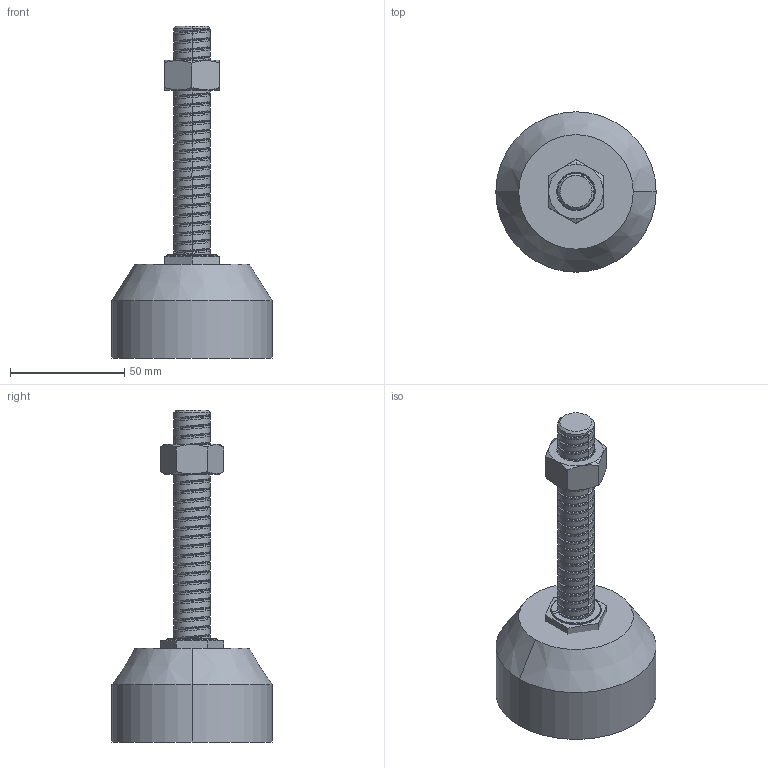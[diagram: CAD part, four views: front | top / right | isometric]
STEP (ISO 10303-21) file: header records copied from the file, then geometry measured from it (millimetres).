
FILE_DESCRIPTION (( 'STEP AP203' ), '1' );
FILE_NAME ('F-101-3-6-L.STEP', '2015-11-23T03:09:43', ( '' ), ( '' ), 'SwSTEP 2.0', 'SolidWorks 2014', '' );
FILE_SCHEMA (( 'CONFIG_CONTROL_DESIGN' ));
Length unit declared in the file: millimetre
Products named in the file (4): 65圓腳座-45; M16螺帽-1; DT-M16X100L-12調整螺絲-1; F-101-3-6-L
Assembly tree (3 placements, depth 2):
  F-101-3-6-L
    65圓腳座-45
    M16螺帽-1
    DT-M16X100L-12調整螺絲-1
Bounding box: 70 x 70 x 145 mm (x, y, z)
Volume: 175302.7 mm3; surface area: 29872.6 mm2
Topology: 4 solids, 4 shells, 162 faces, 405 edges, 254 vertices
Faces by surface type: cylinder 76, cone 50, plane 24, bspline 12
Entity records: 13316 total; most frequent: CARTESIAN_POINT 9408, ORIENTED_EDGE 810, DIRECTION 679, EDGE_CURVE 405, AXIS2_PLACEMENT_3D 270, VERTEX_POINT 254, EDGE_LOOP 169, ADVANCED_FACE 162
